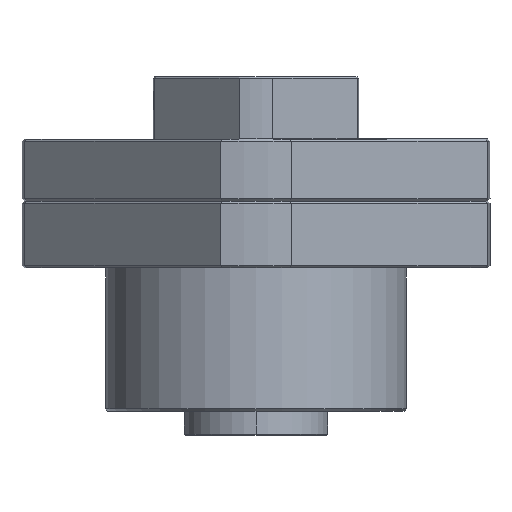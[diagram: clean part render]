
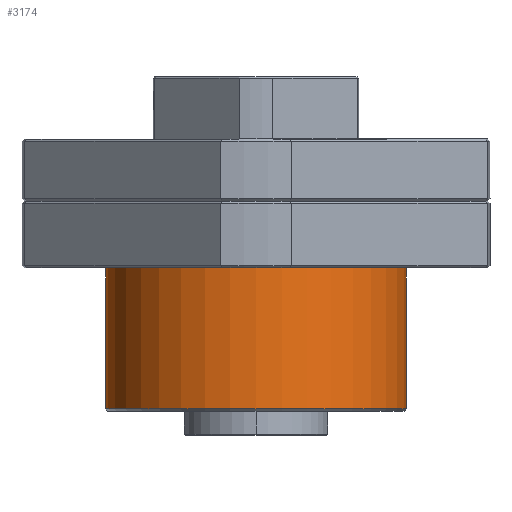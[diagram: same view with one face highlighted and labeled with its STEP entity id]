
A CAD part, left-side view. The second image highlights one B-rep face of the part: STEP entity #3174.
In plain terms, the highlighted cylindrical face has radius 31.5 mm (diameter 63 mm), a partial arc.
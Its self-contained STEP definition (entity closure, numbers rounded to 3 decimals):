
#560 = EDGE_LOOP ( 'NONE', ( #11379, #11337, #11967, #11956 ) ) ;
#1127 = VERTEX_POINT ( 'NONE', #6605 ) ;
#2070 = AXIS2_PLACEMENT_3D ( 'NONE', #8978, #8980, #8981 ) ;
#2194 = AXIS2_PLACEMENT_3D ( 'NONE', #8189, #8192, #8198 ) ;
#2524 = VERTEX_POINT ( 'NONE', #11422 ) ;
#2563 = VERTEX_POINT ( 'NONE', #11149 ) ;
#2566 = VERTEX_POINT ( 'NONE', #11160 ) ;
#3174 = ADVANCED_FACE ( 'NONE', ( #7799 ), #7814, .T. ) ;
#3595 = AXIS2_PLACEMENT_3D ( 'NONE', #11819, #11521, #11834 ) ;
#3686 = EDGE_CURVE ( 'NONE', #2563, #1127, #7981, .T. ) ;
#5462 = LINE ( 'NONE', #10281, #5467 ) ;
#5467 = VECTOR ( 'NONE', #10207, 1000. ) ;
#6347 = EDGE_CURVE ( 'NONE', #2566, #2524, #5462, .T. ) ;
#6605 = CARTESIAN_POINT ( 'NONE',  ( 0., -31.5, -21.5 ) ) ;
#6863 = EDGE_CURVE ( 'NONE', #2524, #1127, #8754, .T. ) ;
#6909 = EDGE_CURVE ( 'NONE', #2563, #2566, #8808, .T. ) ;
#7799 = FACE_OUTER_BOUND ( 'NONE', #560, .T. ) ;
#7814 = CYLINDRICAL_SURFACE ( 'NONE', #3595, 31.5 ) ;
#7981 = LINE ( 'NONE', #11864, #7985 ) ;
#7985 = VECTOR ( 'NONE', #11467, 1000. ) ;
#8189 = CARTESIAN_POINT ( 'NONE',  ( 0., 0., -21.5 ) ) ;
#8192 = DIRECTION ( 'NONE',  ( 0., 0., 1. ) ) ;
#8198 = DIRECTION ( 'NONE',  ( 0., 1., 0. ) ) ;
#8754 = CIRCLE ( 'NONE', #2194, 31.5 ) ;
#8808 = CIRCLE ( 'NONE', #2070, 31.5 ) ;
#8978 = CARTESIAN_POINT ( 'NONE',  ( 0., 0., 8. ) ) ;
#8980 = DIRECTION ( 'NONE',  ( 0., 0., -1. ) ) ;
#8981 = DIRECTION ( 'NONE',  ( 0., -1., 0. ) ) ;
#10207 = DIRECTION ( 'NONE',  ( 0., 0., -1. ) ) ;
#10281 = CARTESIAN_POINT ( 'NONE',  ( 0., 31.5, -22. ) ) ;
#11149 = CARTESIAN_POINT ( 'NONE',  ( 0., -31.5, 8. ) ) ;
#11160 = CARTESIAN_POINT ( 'NONE',  ( 0., 31.5, 8. ) ) ;
#11337 = ORIENTED_EDGE ( 'NONE', *, *, #6347, .T. ) ;
#11379 = ORIENTED_EDGE ( 'NONE', *, *, #6909, .T. ) ;
#11422 = CARTESIAN_POINT ( 'NONE',  ( 0., 31.5, -21.5 ) ) ;
#11467 = DIRECTION ( 'NONE',  ( 0., 0., -1. ) ) ;
#11521 = DIRECTION ( 'NONE',  ( 0., 0., -1. ) ) ;
#11819 = CARTESIAN_POINT ( 'NONE',  ( 0., 0., -22. ) ) ;
#11834 = DIRECTION ( 'NONE',  ( 0., -1., 0. ) ) ;
#11864 = CARTESIAN_POINT ( 'NONE',  ( 0., -31.5, -22. ) ) ;
#11956 = ORIENTED_EDGE ( 'NONE', *, *, #3686, .F. ) ;
#11967 = ORIENTED_EDGE ( 'NONE', *, *, #6863, .T. ) ;
